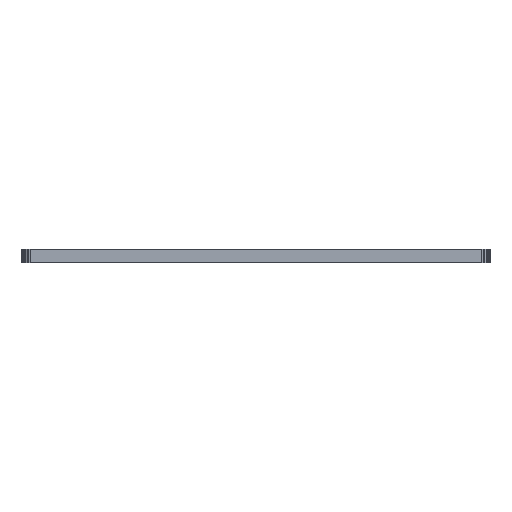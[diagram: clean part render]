
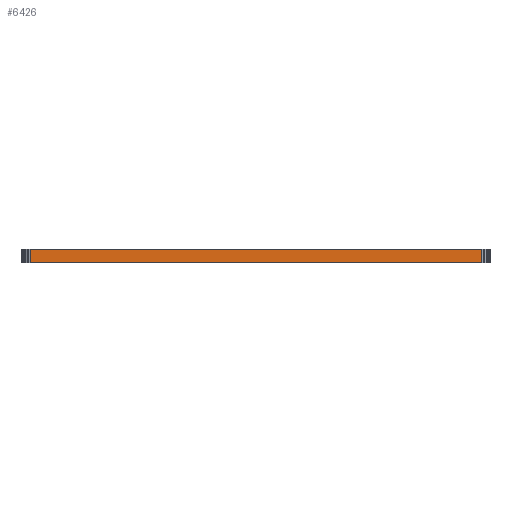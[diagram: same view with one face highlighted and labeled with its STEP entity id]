
A CAD part, left-side view. The second image highlights one B-rep face of the part: STEP entity #6426.
In plain terms, the highlighted planar face has unit normal (-1, 0, 0).
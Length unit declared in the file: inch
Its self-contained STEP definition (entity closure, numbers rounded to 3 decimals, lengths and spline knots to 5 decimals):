
#761 = CARTESIAN_POINT ( 'NONE',  ( 0., -4.56063, 0.0622 ) ) ;
#884 = VECTOR ( 'NONE', #10829, 39.37008 ) ;
#1074 = DIRECTION ( 'NONE',  ( 0., 0., 1. ) ) ;
#2624 = CARTESIAN_POINT ( 'NONE',  ( 0., -2.40945, 0. ) ) ;
#3208 = LINE ( 'NONE', #11785, #12370 ) ;
#3249 = LINE ( 'NONE', #7561, #884 ) ;
#3301 = CARTESIAN_POINT ( 'NONE',  ( 0., -2.40945, 0.0622 ) ) ;
#3559 = VECTOR ( 'NONE', #5671, 39.37008 ) ;
#3663 = ORIENTED_EDGE ( 'NONE', *, *, #7648, .F. ) ;
#4128 = AXIS2_PLACEMENT_3D ( 'NONE', #6423, #10756, #1074 ) ;
#4174 = LINE ( 'NONE', #8359, #13956 ) ;
#5040 = VERTEX_POINT ( 'NONE', #13848 ) ;
#5527 = LINE ( 'NONE', #7939, #3559 ) ;
#5671 = DIRECTION ( 'NONE',  ( 0., 0., 1. ) ) ;
#6250 = VERTEX_POINT ( 'NONE', #2624 ) ;
#6366 = PLANE ( 'NONE',  #4128 ) ;
#6423 = CARTESIAN_POINT ( 'NONE',  ( 0., -4.56063, 0. ) ) ;
#6426 = ADVANCED_FACE ( 'NONE', ( #7497 ), #6366, .T. ) ;
#6519 = DIRECTION ( 'NONE',  ( 0., 1., 0. ) ) ;
#6839 = ORIENTED_EDGE ( 'NONE', *, *, #7670, .T. ) ;
#7314 = EDGE_CURVE ( 'NONE', #5040, #13124, #5527, .T. ) ;
#7422 = EDGE_LOOP ( 'NONE', ( #10072, #6839, #3663, #8855 ) ) ;
#7497 = FACE_OUTER_BOUND ( 'NONE', #7422, .T. ) ;
#7561 = CARTESIAN_POINT ( 'NONE',  ( 0., -4.56063, 0.0622 ) ) ;
#7648 = EDGE_CURVE ( 'NONE', #6250, #13662, #4174, .T. ) ;
#7670 = EDGE_CURVE ( 'NONE', #13124, #13662, #3249, .T. ) ;
#7939 = CARTESIAN_POINT ( 'NONE',  ( 0., -4.56063, 0. ) ) ;
#8359 = CARTESIAN_POINT ( 'NONE',  ( 0., -2.40945, 0. ) ) ;
#8855 = ORIENTED_EDGE ( 'NONE', *, *, #13192, .F. ) ;
#9492 = DIRECTION ( 'NONE',  ( 0., 0., 1. ) ) ;
#10072 = ORIENTED_EDGE ( 'NONE', *, *, #7314, .T. ) ;
#10756 = DIRECTION ( 'NONE',  ( -1., 0., 0. ) ) ;
#10829 = DIRECTION ( 'NONE',  ( 0., 1., 0. ) ) ;
#11785 = CARTESIAN_POINT ( 'NONE',  ( 0., -4.56063, 0. ) ) ;
#12370 = VECTOR ( 'NONE', #6519, 39.37008 ) ;
#13124 = VERTEX_POINT ( 'NONE', #761 ) ;
#13192 = EDGE_CURVE ( 'NONE', #5040, #6250, #3208, .T. ) ;
#13662 = VERTEX_POINT ( 'NONE', #3301 ) ;
#13848 = CARTESIAN_POINT ( 'NONE',  ( 0., -4.56063, 0. ) ) ;
#13956 = VECTOR ( 'NONE', #9492, 39.37008 ) ;
